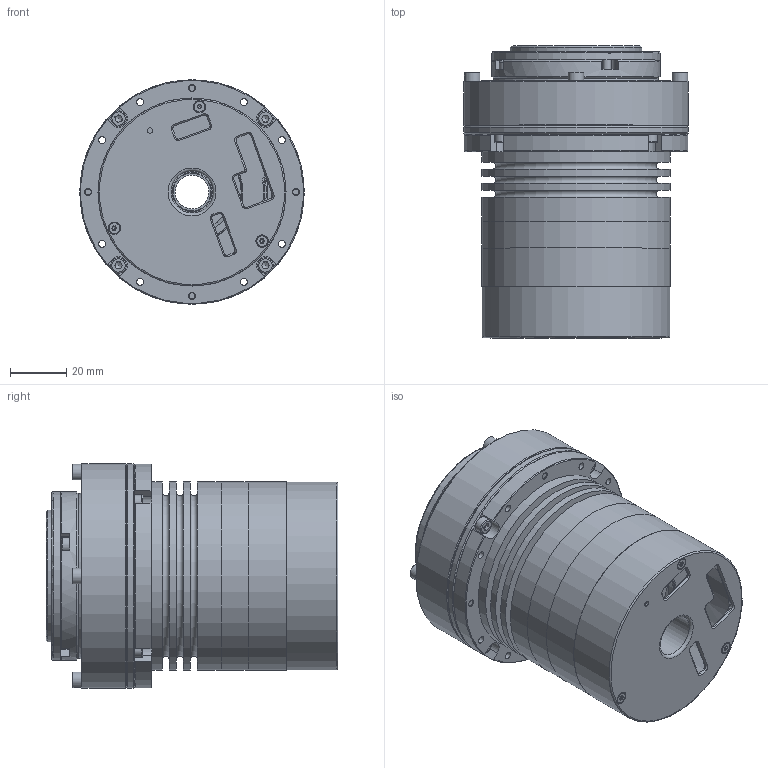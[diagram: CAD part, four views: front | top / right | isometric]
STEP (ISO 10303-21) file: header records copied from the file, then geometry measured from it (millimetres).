
FILE_DESCRIPTION (( 'STEP AP203' ), '1' );
FILE_NAME ('RH-17-100-E-B-D.STEP', '2026-01-08T09:24:46', ( '' ), ( '' ), 'SwSTEP 2.0', 'SolidWorks 2020', '' );
FILE_SCHEMA (( 'CONFIG_CONTROL_DESIGN' ));
Length unit declared in the file: millimetre
Products named in the file (11): 8MT.013.076（RH-17-B 减速机密封盖-ECAT-抱闸）_Default<按加工>; 8MT.013.072 RH-17-B傷裔-惕掅-B; GB╱T 2673.1-2018[内六角花形沉头螺钉M2-M4M3×10]_M3×10; 8MT.215.017（RH-17 细圆柱头螺钉M2.5x8）_M2.5x8  10.9级黑; 8MT.013.075（RH-17-B 驱动器盖-ECAT-抱闸式）; GB╱T 70.1-2008[内六角圆柱头螺钉M3×25]_M3×25; 8MT.013.006（RH-17 抱闸盖）; GB╱T 2673.1-2018[内六角花形沉头螺钉M2-M4M2×20]_M2×20; WHS-17-XX-I_Default<偌樓馱>; RH-17-100-E-B-D; 8MT.034.002（RH-17 机座）
Assembly tree (16 placements, depth 2):
  RH-17-100-E-B-D
    8MT.034.002（RH-17 机座）
    8MT.013.072 RH-17-B傷裔-惕掅-B
    8MT.013.076（RH-17-B 减速机密封盖-ECAT-抱闸）_Default<按加工>
    8MT.215.017（RH-17 细圆柱头螺钉M2.5x8）_M2.5x8  10.9级黑
    8MT.013.006（RH-17 抱闸盖）
    8MT.013.075（RH-17-B 驱动器盖-ECAT-抱闸式）
    WHS-17-XX-I_Default<偌樓馱>
    GB╱T 2673.1-2018[内六角花形沉头螺钉M2-M4M2×20]_M2×20  x3
    GB╱T 70.1-2008[内六角圆柱头螺钉M3×25]_M3×25  x4
    GB╱T 2673.1-2018[内六角花形沉头螺钉M2-M4M3×10]_M3×10  x2
Bounding box: 80 x 104 x 80 mm (x, y, z)
Volume: 188536.8 mm3; surface area: 131341 mm2
Topology: 33 solids, 33 shells, 1107 faces, 2753 edges, 1753 vertices
Faces by surface type: cylinder 462, plane 358, cone 206, torus 61, bspline 20
Full cylindrical faces by diameter (mm): 1.6 x18, 1.742 x3, 1.9 x1, 2 x3, 2.05 x6, 2.4 x12, 2.5 x40, 2.677 x2, 2.9 x6, 3 x36, 3.4 x30, 3.5 x36, 3.8 x4, 4 x6, 4.3 x9, 4.4 x3, 5.5 x12, 12 x1, 14 x1, 15 x1, 16 x1, 17 x1, 18 x2, 28 x2, 29.2 x1, 30.3 x2, 32 x1, 32.7 x1, 32.8 x2, 35 x1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
Entity records: 30038 total; most frequent: CARTESIAN_POINT 6568, DIRECTION 4837, ORIENTED_EDGE 3824, AXIS2_PLACEMENT_3D 2113, EDGE_CURVE 1912, EDGE_LOOP 1736, VERTEX_POINT 1444, FACE_OUTER_BOUND 1293
